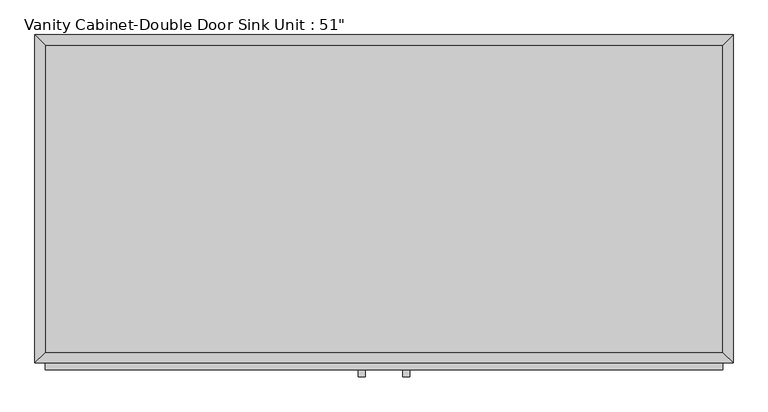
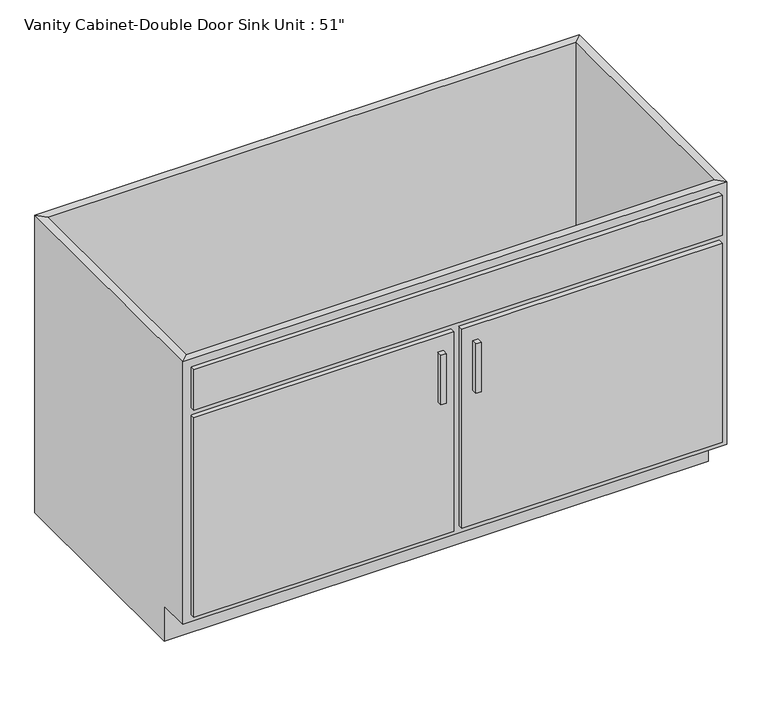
"""IFC4 building model written with IfcOpenShell, lengths in millimetres: furniture geometry."""

from ifc_helpers import new_model, si_unit, frame, origin, place, context, project, spatial, polyline, outline, extrude, faceted_brep, source, transform, mapped, element, save


def furniture_3c352b2e(model_context):
    return source(origin(), model_context, "Body", "SolidModel", [
        faceted_brep([(647.3877049, -590.55, 749.3), (647.3877049, -590.55, 88.9), (-609.9122951, -590.55, 88.9), (-609.9122951, -590.55, 749.3), (-628.9622951, -609.6, 749.3), (666.4377049, -609.6, 749.3), (-628.9622951, -609.6, 88.9), (666.4377049, -609.6, 88.9), (-609.9122951, -533.4, 88.9), (-609.9122951, -19.05, 88.9), (-609.9122951, -19.05, 749.3), (-628.9622951, 0.0, 749.3), (-628.9622951, 0.0, 0.0), (-628.9622951, -533.4, 0.0), (-628.9622951, -533.4, 88.9), (647.3877049, -19.05, 88.9), (647.3877049, -19.05, 749.3), (666.4377049, 0.0, 749.3), (666.4377049, 0.0, 0.0), (647.3877049, -533.4, 88.9), (666.4377049, -533.4, 88.9), (666.4377049, -533.4, 0.0)], [[[0, 1, 2, 3]], [[0, 3, 4, 5]], [[5, 4, 6, 7]], [[2, 1, 7, 6]], [[3, 2, 8, 9, 10]], [[4, 3, 10, 11]], [[6, 4, 11, 12, 13, 14]], [[2, 6, 14, 8]], [[10, 9, 15, 16]], [[11, 10, 16, 17]], [[12, 11, 17, 18]], [[1, 0, 16, 15, 19]], [[0, 5, 17, 16]], [[5, 7, 20, 21, 18, 17]], [[7, 1, 19, 20]], [[8, 19, 15, 9]], [[18, 21, 13, 12]], [[13, 21, 20, 19, 8, 14]]]),
        extrude(outline(polyline([(-16.1872951, -635.0), (-28.8872951, -635.0), (-28.8872951, -622.3), (-16.1872951, -622.3), (-16.1872951, -635.0)])), frame((0.0, 0.0, 446.769895), z_axis=(0.0, 0.0, 1.0), x_axis=(1.0, 0.0, 0.0)), (0.0, 0.0, 1.0), 124.730105),
        extrude(outline(polyline([(66.3627049, -635.0), (53.6627049, -635.0), (53.6627049, -622.3), (66.3627049, -622.3), (66.3627049, -635.0)])), frame((0.0, 0.0, 446.769895), z_axis=(0.0, 0.0, 1.0), x_axis=(1.0, 0.0, 0.0)), (0.0, 0.0, 1.0), 124.730105),
        extrude(outline(polyline([(647.3877049, -19.05), (647.3877049, -590.55), (-609.9122951, -590.55), (-609.9122951, -19.05), (647.3877049, -19.05)])), frame((0.0, 0.0, 88.9), z_axis=(0.0, 0.0, 1.0), x_axis=(1.0, 0.0, 0.0)), (0.0, 0.0, 1.0), 19.05),
        extrude(outline(polyline([(9.2127049, -622.3), (-609.9122951, -622.3), (-609.9122951, -609.6), (9.2127049, -609.6), (9.2127049, -622.3)])), frame((0.0, 0.0, 107.95), z_axis=(0.0, 0.0, 1.0), x_axis=(1.0, 0.0, 0.0)), (0.0, 0.0, 1.0), 501.65),
        extrude(outline(polyline([(647.3877049, -622.3), (28.2627049, -622.3), (28.2627049, -609.6), (647.3877049, -609.6), (647.3877049, -622.3)])), frame((0.0, 0.0, 107.95), z_axis=(0.0, 0.0, 1.0), x_axis=(1.0, 0.0, 0.0)), (0.0, 0.0, 1.0), 501.65),
        extrude(outline(polyline([(647.3877049, -622.3), (-609.9122951, -622.3), (-609.9122951, -609.6), (647.3877049, -609.6), (647.3877049, -622.3)])), frame((0.0, 0.0, 628.65), z_axis=(0.0, 0.0, 1.0), x_axis=(1.0, 0.0, 0.0)), (0.0, 0.0, 1.0), 101.6),
    ])


if __name__ == "__main__":
    model = new_model("IFC4")
    model_context = context("Model", 3, world=origin())
    ifc_project = project(units=[si_unit("LENGTHUNIT", "METRE", prefix="MILLI")], contexts=[model_context])
    site = spatial("IfcSite", under=ifc_project)
    building = spatial("IfcBuilding", under=site)
    placement = place(None, origin())
    furniture_shape = furniture_3c352b2e(model_context)
    element("IfcFurniture", 1, ObjectType="Vanity Cabinet-Double Door Sink Unit : 51\"", at=placement, inside=building, context=model_context, shape_type="MappedRepresentation", body=[
        mapped(furniture_shape, transform((0.0, 0.0, 0.0), x_axis=(1.0, 0.0, 0.0), y_axis=(0.0, 1.0, 0.0), z_axis=(0.0, 0.0, 1.0))),
    ])
    save(model, "model.ifc")
